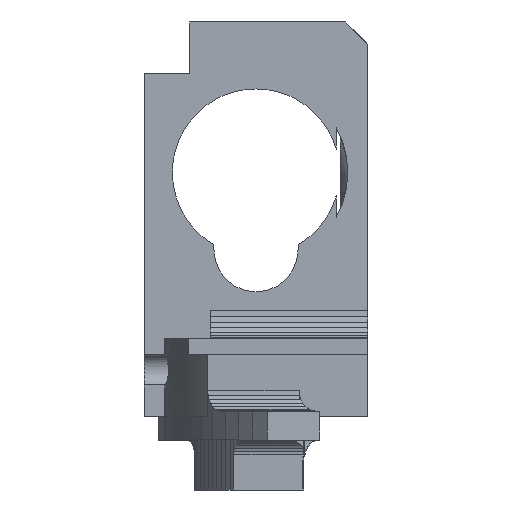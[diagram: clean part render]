
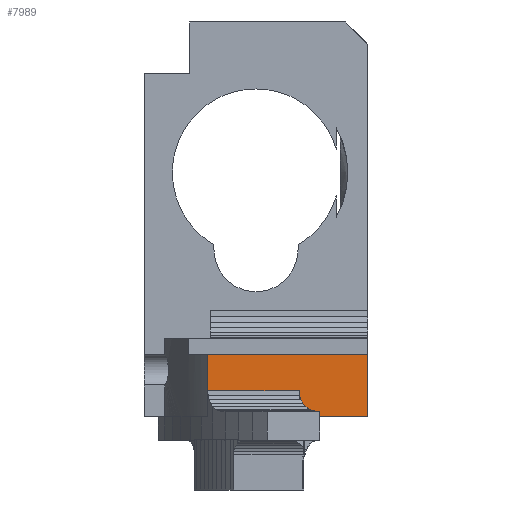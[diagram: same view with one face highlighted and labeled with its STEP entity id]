
A CAD part, left-side view. The second image highlights one B-rep face of the part: STEP entity #7989.
In plain terms, the highlighted planar face has unit normal (-1, 0, 0).
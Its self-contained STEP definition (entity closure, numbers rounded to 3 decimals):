
#32 = PLANE('',#33);
#33 = AXIS2_PLACEMENT_3D('',#34,#35,#36);
#34 = CARTESIAN_POINT('',(-13.585,25.073,-41.9));
#35 = DIRECTION('',(0.,0.,1.));
#36 = DIRECTION('',(1.,0.,-0.));
#85 = VERTEX_POINT('',#86);
#86 = CARTESIAN_POINT('',(-16.9,20.077,-41.9));
#100 = PLANE('',#101);
#101 = AXIS2_PLACEMENT_3D('',#102,#103,#104);
#102 = CARTESIAN_POINT('',(-17.585,19.489,-43.6));
#103 = DIRECTION('',(-0.651,0.759,0.));
#104 = DIRECTION('',(0.759,0.651,0.));
#112 = EDGE_CURVE('',#113,#85,#115,.T.);
#113 = VERTEX_POINT('',#114);
#114 = CARTESIAN_POINT('',(-16.9,15.1,-41.9));
#115 = SURFACE_CURVE('',#116,(#120,#127),.PCURVE_S1.);
#116 = LINE('',#117,#118);
#117 = CARTESIAN_POINT('',(-16.9,15.1,-41.9));
#118 = VECTOR('',#119,1.);
#119 = DIRECTION('',(0.,1.,0.));
#120 = PCURVE('',#32,#121);
#121 = DEFINITIONAL_REPRESENTATION('',(#122),#126);
#122 = LINE('',#123,#124);
#123 = CARTESIAN_POINT('',(-3.315,-9.973));
#124 = VECTOR('',#125,1.);
#125 = DIRECTION('',(0.,1.));
#126 = ( GEOMETRIC_REPRESENTATION_CONTEXT(2) 
PARAMETRIC_REPRESENTATION_CONTEXT() REPRESENTATION_CONTEXT('2D SPACE',''
  ) );
#127 = PCURVE('',#128,#133);
#128 = PLANE('',#129);
#129 = AXIS2_PLACEMENT_3D('',#130,#131,#132);
#130 = CARTESIAN_POINT('',(-16.9,15.1,-41.9));
#131 = DIRECTION('',(1.,0.,-0.));
#132 = DIRECTION('',(0.,0.,1.));
#133 = DEFINITIONAL_REPRESENTATION('',(#134),#138);
#134 = LINE('',#135,#136);
#135 = CARTESIAN_POINT('',(0.,0.));
#136 = VECTOR('',#137,1.);
#137 = DIRECTION('',(0.,-1.));
#138 = ( GEOMETRIC_REPRESENTATION_CONTEXT(2) 
PARAMETRIC_REPRESENTATION_CONTEXT() REPRESENTATION_CONTEXT('2D SPACE',''
  ) );
#156 = PLANE('',#157);
#157 = AXIS2_PLACEMENT_3D('',#158,#159,#160);
#158 = CARTESIAN_POINT('',(-16.9,15.1,-41.9));
#159 = DIRECTION('',(-0.,1.,0.));
#160 = DIRECTION('',(0.,0.,1.));
#409 = CYLINDRICAL_SURFACE('',#410,31.6);
#410 = AXIS2_PLACEMENT_3D('',#411,#412,#413);
#411 = CARTESIAN_POINT('',(0.,0.,-60.));
#412 = DIRECTION('',(0.,0.,1.));
#413 = DIRECTION('',(1.,0.,-0.));
#2399 = PLANE('',#2400);
#2400 = AXIS2_PLACEMENT_3D('',#2401,#2402,#2403);
#2401 = CARTESIAN_POINT('',(-16.133,27.171,-43.6));
#2402 = DIRECTION('',(0.532,-0.847,0.));
#2403 = DIRECTION('',(-0.847,-0.532,0.));
#4666 = PLANE('',#4667);
#4667 = AXIS2_PLACEMENT_3D('',#4668,#4669,#4670);
#4668 = CARTESIAN_POINT('',(-16.938,15.,-40.334));
#4669 = DIRECTION('',(0.994,0.,-0.112));
#4670 = DIRECTION('',(0.112,0.,0.994));
#4682 = VERTEX_POINT('',#4683);
#4683 = CARTESIAN_POINT('',(-16.9,20.077,-40.));
#4705 = VERTEX_POINT('',#4706);
#4706 = CARTESIAN_POINT('',(-16.9,26.69,-40.));
#4726 = EDGE_CURVE('',#4682,#4705,#4727,.T.);
#4727 = SURFACE_CURVE('',#4728,(#4732,#4739),.PCURVE_S1.);
#4728 = LINE('',#4729,#4730);
#4729 = CARTESIAN_POINT('',(-16.9,15.,-40.));
#4730 = VECTOR('',#4731,1.);
#4731 = DIRECTION('',(0.,1.,0.));
#4732 = PCURVE('',#4666,#4733);
#4733 = DEFINITIONAL_REPRESENTATION('',(#4734),#4738);
#4734 = LINE('',#4735,#4736);
#4735 = CARTESIAN_POINT('',(0.336,0.));
#4736 = VECTOR('',#4737,1.);
#4737 = DIRECTION('',(0.,-1.));
#4738 = ( GEOMETRIC_REPRESENTATION_CONTEXT(2) 
PARAMETRIC_REPRESENTATION_CONTEXT() REPRESENTATION_CONTEXT('2D SPACE',''
  ) );
#4739 = PCURVE('',#128,#4740);
#4740 = DEFINITIONAL_REPRESENTATION('',(#4741),#4745);
#4741 = LINE('',#4742,#4743);
#4742 = CARTESIAN_POINT('',(1.9,0.1));
#4743 = VECTOR('',#4744,1.);
#4744 = DIRECTION('',(0.,-1.));
#4745 = ( GEOMETRIC_REPRESENTATION_CONTEXT(2) 
PARAMETRIC_REPRESENTATION_CONTEXT() REPRESENTATION_CONTEXT('2D SPACE',''
  ) );
#6663 = VERTEX_POINT('',#6664);
#6664 = CARTESIAN_POINT('',(-16.9,26.69,-41.9));
#6678 = PLANE('',#6679);
#6679 = AXIS2_PLACEMENT_3D('',#6680,#6681,#6682);
#6680 = CARTESIAN_POINT('',(-13.585,25.073,-41.9));
#6681 = DIRECTION('',(0.,0.,1.));
#6682 = DIRECTION('',(1.,0.,-0.));
#6690 = EDGE_CURVE('',#6663,#4705,#6691,.T.);
#6691 = SURFACE_CURVE('',#6692,(#6696,#6703),.PCURVE_S1.);
#6692 = LINE('',#6693,#6694);
#6693 = CARTESIAN_POINT('',(-16.9,26.69,-41.9));
#6694 = VECTOR('',#6695,1.);
#6695 = DIRECTION('',(0.,0.,1.));
#6696 = PCURVE('',#2399,#6697);
#6697 = DEFINITIONAL_REPRESENTATION('',(#6698),#6702);
#6698 = LINE('',#6699,#6700);
#6699 = CARTESIAN_POINT('',(0.905,-1.7));
#6700 = VECTOR('',#6701,1.);
#6701 = DIRECTION('',(0.,-1.));
#6702 = ( GEOMETRIC_REPRESENTATION_CONTEXT(2) 
PARAMETRIC_REPRESENTATION_CONTEXT() REPRESENTATION_CONTEXT('2D SPACE',''
  ) );
#6703 = PCURVE('',#128,#6704);
#6704 = DEFINITIONAL_REPRESENTATION('',(#6705),#6709);
#6705 = LINE('',#6706,#6707);
#6706 = CARTESIAN_POINT('',(0.,-11.59));
#6707 = VECTOR('',#6708,1.);
#6708 = DIRECTION('',(1.,0.));
#6709 = ( GEOMETRIC_REPRESENTATION_CONTEXT(2) 
PARAMETRIC_REPRESENTATION_CONTEXT() REPRESENTATION_CONTEXT('2D SPACE',''
  ) );
#6725 = VERTEX_POINT('',#6726);
#6726 = CARTESIAN_POINT('',(-16.9,26.701,-41.9));
#6748 = EDGE_CURVE('',#6725,#6663,#6749,.T.);
#6749 = SURFACE_CURVE('',#6750,(#6754,#6761),.PCURVE_S1.);
#6750 = LINE('',#6751,#6752);
#6751 = CARTESIAN_POINT('',(-16.9,26.701,-41.9));
#6752 = VECTOR('',#6753,1.);
#6753 = DIRECTION('',(0.,-1.,0.));
#6754 = PCURVE('',#6678,#6755);
#6755 = DEFINITIONAL_REPRESENTATION('',(#6756),#6760);
#6756 = LINE('',#6757,#6758);
#6757 = CARTESIAN_POINT('',(-3.315,1.628));
#6758 = VECTOR('',#6759,1.);
#6759 = DIRECTION('',(0.,-1.));
#6760 = ( GEOMETRIC_REPRESENTATION_CONTEXT(2) 
PARAMETRIC_REPRESENTATION_CONTEXT() REPRESENTATION_CONTEXT('2D SPACE',''
  ) );
#6761 = PCURVE('',#128,#6762);
#6762 = DEFINITIONAL_REPRESENTATION('',(#6763),#6767);
#6763 = LINE('',#6764,#6765);
#6764 = CARTESIAN_POINT('',(0.,-11.601));
#6765 = VECTOR('',#6766,1.);
#6766 = DIRECTION('',(0.,1.));
#6767 = ( GEOMETRIC_REPRESENTATION_CONTEXT(2) 
PARAMETRIC_REPRESENTATION_CONTEXT() REPRESENTATION_CONTEXT('2D SPACE',''
  ) );
#7967 = EDGE_CURVE('',#4682,#85,#7968,.T.);
#7968 = SURFACE_CURVE('',#7969,(#7973,#7980),.PCURVE_S1.);
#7969 = LINE('',#7970,#7971);
#7970 = CARTESIAN_POINT('',(-16.9,20.077,-40.));
#7971 = VECTOR('',#7972,1.);
#7972 = DIRECTION('',(0.,0.,-1.));
#7973 = PCURVE('',#100,#7974);
#7974 = DEFINITIONAL_REPRESENTATION('',(#7975),#7979);
#7975 = LINE('',#7976,#7977);
#7976 = CARTESIAN_POINT('',(0.903,-3.6));
#7977 = VECTOR('',#7978,1.);
#7978 = DIRECTION('',(0.,1.));
#7979 = ( GEOMETRIC_REPRESENTATION_CONTEXT(2) 
PARAMETRIC_REPRESENTATION_CONTEXT() REPRESENTATION_CONTEXT('2D SPACE',''
  ) );
#7980 = PCURVE('',#128,#7981);
#7981 = DEFINITIONAL_REPRESENTATION('',(#7982),#7986);
#7982 = LINE('',#7983,#7984);
#7983 = CARTESIAN_POINT('',(1.9,-4.977));
#7984 = VECTOR('',#7985,1.);
#7985 = DIRECTION('',(-1.,0.));
#7986 = ( GEOMETRIC_REPRESENTATION_CONTEXT(2) 
PARAMETRIC_REPRESENTATION_CONTEXT() REPRESENTATION_CONTEXT('2D SPACE',''
  ) );
#7989 = ADVANCED_FACE('',(#7990),#128,.F.);
#7990 = FACE_BOUND('',#7991,.F.);
#7991 = EDGE_LOOP('',(#7992,#8022,#8043,#8044,#8045,#8046,#8047,#8048));
#7992 = ORIENTED_EDGE('',*,*,#7993,.F.);
#7993 = EDGE_CURVE('',#7994,#7996,#7998,.T.);
#7994 = VERTEX_POINT('',#7995);
#7995 = CARTESIAN_POINT('',(-16.9,15.1,-37.4));
#7996 = VERTEX_POINT('',#7997);
#7997 = CARTESIAN_POINT('',(-16.9,26.701,-37.4));
#7998 = SURFACE_CURVE('',#7999,(#8003,#8010),.PCURVE_S1.);
#7999 = LINE('',#8000,#8001);
#8000 = CARTESIAN_POINT('',(-16.9,15.1,-37.4));
#8001 = VECTOR('',#8002,1.);
#8002 = DIRECTION('',(0.,1.,0.));
#8003 = PCURVE('',#128,#8004);
#8004 = DEFINITIONAL_REPRESENTATION('',(#8005),#8009);
#8005 = LINE('',#8006,#8007);
#8006 = CARTESIAN_POINT('',(4.5,0.));
#8007 = VECTOR('',#8008,1.);
#8008 = DIRECTION('',(0.,-1.));
#8009 = ( GEOMETRIC_REPRESENTATION_CONTEXT(2) 
PARAMETRIC_REPRESENTATION_CONTEXT() REPRESENTATION_CONTEXT('2D SPACE',''
  ) );
#8010 = PCURVE('',#8011,#8016);
#8011 = PLANE('',#8012);
#8012 = AXIS2_PLACEMENT_3D('',#8013,#8014,#8015);
#8013 = CARTESIAN_POINT('',(-16.9,15.1,-37.4));
#8014 = DIRECTION('',(0.,0.,1.));
#8015 = DIRECTION('',(1.,0.,-0.));
#8016 = DEFINITIONAL_REPRESENTATION('',(#8017),#8021);
#8017 = LINE('',#8018,#8019);
#8018 = CARTESIAN_POINT('',(0.,0.));
#8019 = VECTOR('',#8020,1.);
#8020 = DIRECTION('',(0.,1.));
#8021 = ( GEOMETRIC_REPRESENTATION_CONTEXT(2) 
PARAMETRIC_REPRESENTATION_CONTEXT() REPRESENTATION_CONTEXT('2D SPACE',''
  ) );
#8022 = ORIENTED_EDGE('',*,*,#8023,.F.);
#8023 = EDGE_CURVE('',#113,#7994,#8024,.T.);
#8024 = SURFACE_CURVE('',#8025,(#8029,#8036),.PCURVE_S1.);
#8025 = LINE('',#8026,#8027);
#8026 = CARTESIAN_POINT('',(-16.9,15.1,-41.9));
#8027 = VECTOR('',#8028,1.);
#8028 = DIRECTION('',(0.,0.,1.));
#8029 = PCURVE('',#128,#8030);
#8030 = DEFINITIONAL_REPRESENTATION('',(#8031),#8035);
#8031 = LINE('',#8032,#8033);
#8032 = CARTESIAN_POINT('',(0.,0.));
#8033 = VECTOR('',#8034,1.);
#8034 = DIRECTION('',(1.,0.));
#8035 = ( GEOMETRIC_REPRESENTATION_CONTEXT(2) 
PARAMETRIC_REPRESENTATION_CONTEXT() REPRESENTATION_CONTEXT('2D SPACE',''
  ) );
#8036 = PCURVE('',#156,#8037);
#8037 = DEFINITIONAL_REPRESENTATION('',(#8038),#8042);
#8038 = LINE('',#8039,#8040);
#8039 = CARTESIAN_POINT('',(0.,0.));
#8040 = VECTOR('',#8041,1.);
#8041 = DIRECTION('',(1.,0.));
#8042 = ( GEOMETRIC_REPRESENTATION_CONTEXT(2) 
PARAMETRIC_REPRESENTATION_CONTEXT() REPRESENTATION_CONTEXT('2D SPACE',''
  ) );
#8043 = ORIENTED_EDGE('',*,*,#112,.T.);
#8044 = ORIENTED_EDGE('',*,*,#7967,.F.);
#8045 = ORIENTED_EDGE('',*,*,#4726,.T.);
#8046 = ORIENTED_EDGE('',*,*,#6690,.F.);
#8047 = ORIENTED_EDGE('',*,*,#6748,.F.);
#8048 = ORIENTED_EDGE('',*,*,#8049,.T.);
#8049 = EDGE_CURVE('',#6725,#7996,#8050,.T.);
#8050 = SURFACE_CURVE('',#8051,(#8055,#8062),.PCURVE_S1.);
#8051 = LINE('',#8052,#8053);
#8052 = CARTESIAN_POINT('',(-16.9,26.701,-60.));
#8053 = VECTOR('',#8054,1.);
#8054 = DIRECTION('',(0.,0.,1.));
#8055 = PCURVE('',#128,#8056);
#8056 = DEFINITIONAL_REPRESENTATION('',(#8057),#8061);
#8057 = LINE('',#8058,#8059);
#8058 = CARTESIAN_POINT('',(-18.1,-11.601));
#8059 = VECTOR('',#8060,1.);
#8060 = DIRECTION('',(1.,0.));
#8061 = ( GEOMETRIC_REPRESENTATION_CONTEXT(2) 
PARAMETRIC_REPRESENTATION_CONTEXT() REPRESENTATION_CONTEXT('2D SPACE',''
  ) );
#8062 = PCURVE('',#409,#8063);
#8063 = DEFINITIONAL_REPRESENTATION('',(#8064),#8067);
#8064 = B_SPLINE_CURVE_WITH_KNOTS('',1,(#8065,#8066),.UNSPECIFIED.,.F.,
  .F.,(2,2),(17.65,23.05),.PIECEWISE_BEZIER_KNOTS.);
#8065 = CARTESIAN_POINT('',(2.135,17.65));
#8066 = CARTESIAN_POINT('',(2.135,23.05));
#8067 = ( GEOMETRIC_REPRESENTATION_CONTEXT(2) 
PARAMETRIC_REPRESENTATION_CONTEXT() REPRESENTATION_CONTEXT('2D SPACE',''
  ) );
